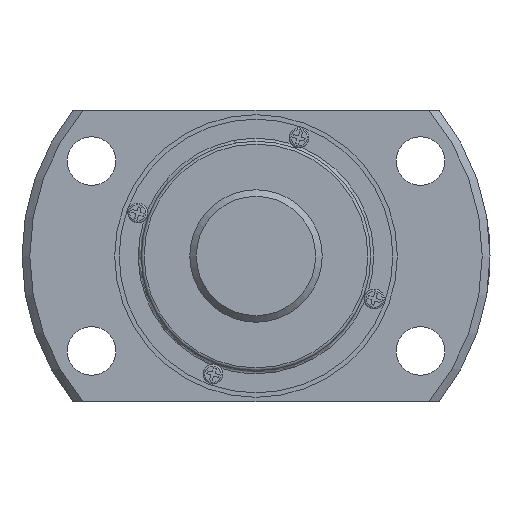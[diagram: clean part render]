
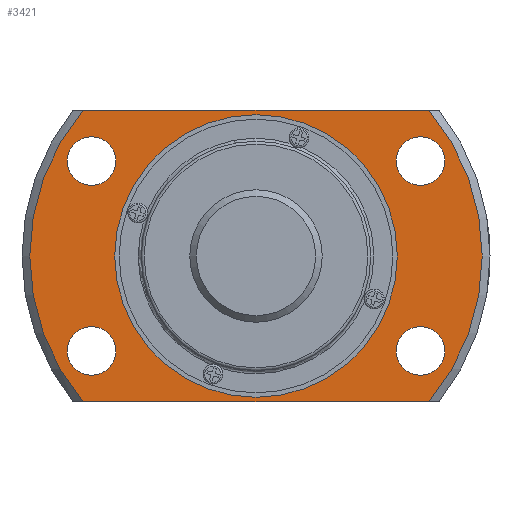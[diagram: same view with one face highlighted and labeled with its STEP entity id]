
A CAD part, left-side view. The second image highlights one B-rep face of the part: STEP entity #3421.
In plain terms, the highlighted planar face has unit normal (-1, 0, 0).
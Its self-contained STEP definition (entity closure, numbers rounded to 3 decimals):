
#24=LINE('',#5203,#352);
#25=LINE('',#5204,#353);
#352=VECTOR('',#4092,1000.);
#353=VECTOR('',#4093,1000.);
#728=PLANE('',#3681);
#912=ORIENTED_EDGE('',*,*,#1876,.T.);
#913=ORIENTED_EDGE('',*,*,#1877,.T.);
#914=ORIENTED_EDGE('',*,*,#1878,.T.);
#915=ORIENTED_EDGE('',*,*,#1879,.T.);
#916=ORIENTED_EDGE('',*,*,#1880,.T.);
#917=ORIENTED_EDGE('',*,*,#1871,.F.);
#918=ORIENTED_EDGE('',*,*,#1881,.T.);
#919=ORIENTED_EDGE('',*,*,#1874,.F.);
#920=ORIENTED_EDGE('',*,*,#1882,.T.);
#1871=EDGE_CURVE('',#2353,#2354,#2681,.T.);
#1874=EDGE_CURVE('',#2355,#2356,#2682,.T.);
#1876=EDGE_CURVE('',#2357,#2357,#2683,.T.);
#1877=EDGE_CURVE('',#2358,#2358,#2684,.T.);
#1878=EDGE_CURVE('',#2359,#2359,#2685,.T.);
#1879=EDGE_CURVE('',#2360,#2360,#2686,.T.);
#1880=EDGE_CURVE('',#2361,#2361,#2687,.T.);
#1881=EDGE_CURVE('',#2353,#2356,#24,.T.);
#1882=EDGE_CURVE('',#2355,#2354,#25,.T.);
#2353=VERTEX_POINT('',#5173);
#2354=VERTEX_POINT('',#5175);
#2355=VERTEX_POINT('',#5185);
#2356=VERTEX_POINT('',#5187);
#2357=VERTEX_POINT('',#5194);
#2358=VERTEX_POINT('',#5196);
#2359=VERTEX_POINT('',#5198);
#2360=VERTEX_POINT('',#5200);
#2361=VERTEX_POINT('',#5202);
#2681=CIRCLE('',#3678,25.617);
#2682=CIRCLE('',#3680,25.617);
#2683=CIRCLE('',#3682,16.);
#2684=CIRCLE('',#3683,2.75);
#2685=CIRCLE('',#3684,2.75);
#2686=CIRCLE('',#3685,2.75);
#2687=CIRCLE('',#3686,2.75);
#2822=EDGE_LOOP('',(#912));
#2823=EDGE_LOOP('',(#913));
#2824=EDGE_LOOP('',(#914));
#2825=EDGE_LOOP('',(#915));
#2826=EDGE_LOOP('',(#916));
#2827=EDGE_LOOP('',(#917,#918,#919,#920));
#3098=FACE_BOUND('',#2822,.T.);
#3099=FACE_BOUND('',#2823,.T.);
#3100=FACE_BOUND('',#2824,.T.);
#3101=FACE_BOUND('',#2825,.T.);
#3102=FACE_BOUND('',#2826,.T.);
#3103=FACE_BOUND('',#2827,.T.);
#3421=ADVANCED_FACE('',(#3098,#3099,#3100,#3101,#3102,#3103),#728,.T.);
#3678=AXIS2_PLACEMENT_3D('',#5174,#4074,#4075);
#3680=AXIS2_PLACEMENT_3D('',#5186,#4078,#4079);
#3681=AXIS2_PLACEMENT_3D('',#5192,#4080,#4081);
#3682=AXIS2_PLACEMENT_3D('',#5193,#4082,#4083);
#3683=AXIS2_PLACEMENT_3D('',#5195,#4084,#4085);
#3684=AXIS2_PLACEMENT_3D('',#5197,#4086,#4087);
#3685=AXIS2_PLACEMENT_3D('',#5199,#4088,#4089);
#3686=AXIS2_PLACEMENT_3D('',#5201,#4090,#4091);
#4074=DIRECTION('',(1.,0.,0.));
#4075=DIRECTION('',(0.,0.,-1.));
#4078=DIRECTION('',(1.,0.,0.));
#4079=DIRECTION('',(0.,0.,-1.));
#4080=DIRECTION('',(-1.,0.,0.));
#4081=DIRECTION('',(0.,0.,1.));
#4082=DIRECTION('',(1.,0.,0.));
#4083=DIRECTION('',(0.,0.,-1.));
#4084=DIRECTION('',(1.,0.,0.));
#4085=DIRECTION('',(0.,0.,-1.));
#4086=DIRECTION('',(1.,0.,0.));
#4087=DIRECTION('',(0.,0.,-1.));
#4088=DIRECTION('',(1.,0.,0.));
#4089=DIRECTION('',(0.,0.,-1.));
#4090=DIRECTION('',(1.,0.,0.));
#4091=DIRECTION('',(0.,0.,-1.));
#4092=DIRECTION('',(0.,1.,0.));
#4093=DIRECTION('',(0.,-1.,0.));
#5173=CARTESIAN_POINT('',(7.,-19.595,16.5));
#5174=CARTESIAN_POINT('',(7.,0.,0.));
#5175=CARTESIAN_POINT('',(7.,-19.595,-16.5));
#5185=CARTESIAN_POINT('',(7.,19.595,-16.5));
#5186=CARTESIAN_POINT('',(7.,0.,0.));
#5187=CARTESIAN_POINT('',(7.,19.595,16.5));
#5192=CARTESIAN_POINT('',(7.,25.617,0.));
#5193=CARTESIAN_POINT('',(7.,0.,0.));
#5194=CARTESIAN_POINT('',(7.,0.,-16.));
#5195=CARTESIAN_POINT('',(7.,-18.62,10.75));
#5196=CARTESIAN_POINT('',(7.,-18.62,8.));
#5197=CARTESIAN_POINT('',(7.,18.62,-10.75));
#5198=CARTESIAN_POINT('',(7.,18.62,-13.5));
#5199=CARTESIAN_POINT('',(7.,-18.62,-10.75));
#5200=CARTESIAN_POINT('',(7.,-18.62,-13.5));
#5201=CARTESIAN_POINT('',(7.,18.62,10.75));
#5202=CARTESIAN_POINT('',(7.,18.62,8.));
#5203=CARTESIAN_POINT('',(7.,25.617,16.5));
#5204=CARTESIAN_POINT('',(7.,25.617,-16.5));
